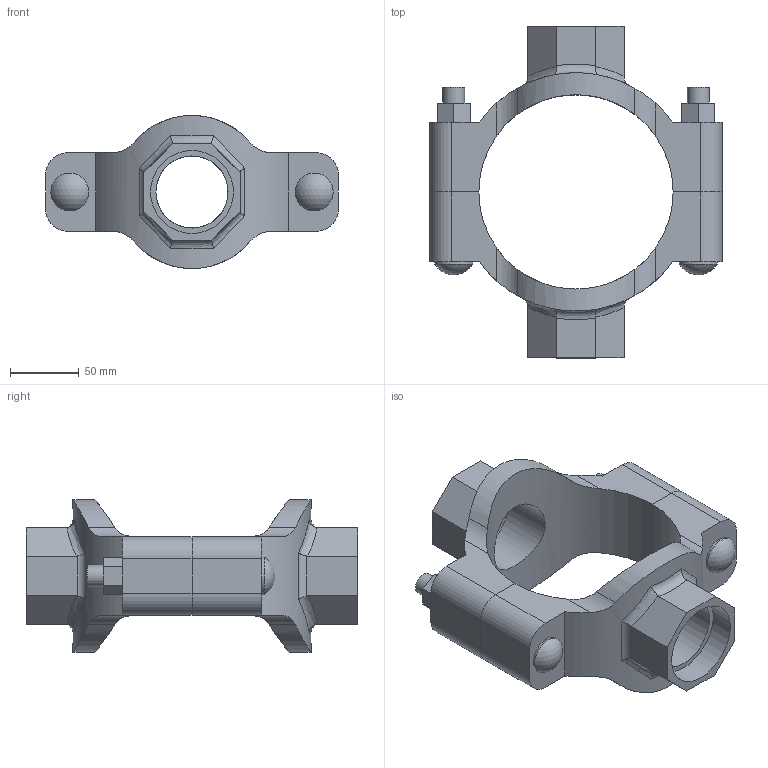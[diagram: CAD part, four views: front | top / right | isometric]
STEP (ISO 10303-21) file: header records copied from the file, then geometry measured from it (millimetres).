
FILE_DESCRIPTION(/* description */ ('VIC MECH-T BRANCH OUTLET CROSS STYLE 920N (THD)','CAx-IF Rec.Pracs.---Representation and Presentation of Product Manufacturing Information (PMI)---4.0---2014-10-13'),/* implementation_level */ '2;1');
FILE_NAME(/* name */ 'C:\Users\Vjadhav\AppData\Roaming\Autodesk\ApplicationPlugins\Back Up\Victaulic_IPS_Mechanical-Cross Outlet_Style 920N (FPT)\Victaulic_IPS_Mechanical-Cross Outlet_05.0x02.0x02.0 (125x50x50).stp',/* time_stamp */ '2020-08-06T18:59:06+05:00',/* author */ ('Vjadhav'),/* organization */ ('Victaulic'),/* preprocessor_version */ 'ST-DEVELOPER v17.2',/* originating_system */ 'Autodesk Inventor 2019',/* authorisation */ '');
FILE_SCHEMA (('AP242_MANAGED_MODEL_BASED_3D_ENGINEERING_MIM_LF { 1 0 10303 442 1 1 4 }'));
Length unit declared in the file: inch
Products named in the file (3): 920NT-05.0x02.0x02.0; 920T-05.0x02.0; 920T-05.0x02.0_1
Assembly tree (2 placements, depth 2):
  920NT-05.0x02.0x02.0
    920T-05.0x02.0
    920T-05.0x02.0_1
Bounding box: 212.85 x 241.3 x 111.25 mm (x, y, z)
Volume: 891373.9 mm3; surface area: 164889.2 mm2
Topology: 2 solids, 2 shells, 128 faces, 338 edges, 228 vertices
Faces by surface type: plane 68, cylinder 46, bspline 8, torus 4, sphere 2
Full cylindrical faces by diameter (mm): 15.875 x4, 27.496 x2, 52.387 x2, 60.325 x2
Entity records: 5162 total; most frequent: CARTESIAN_POINT 1757, ORIENTED_EDGE 676, DIRECTION 628, EDGE_CURVE 338, VERTEX_POINT 228, AXIS2_PLACEMENT_3D 223, LINE 182, VECTOR 182
